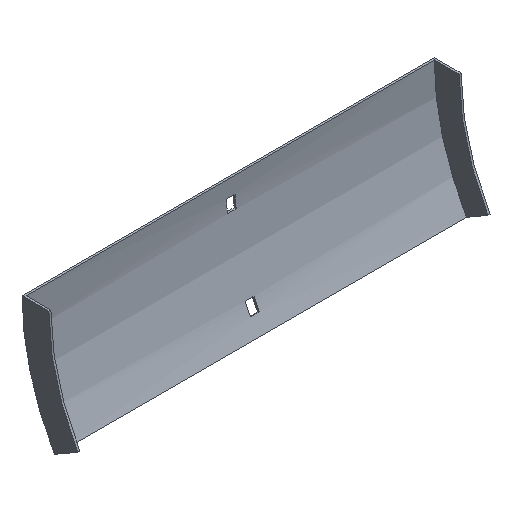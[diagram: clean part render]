
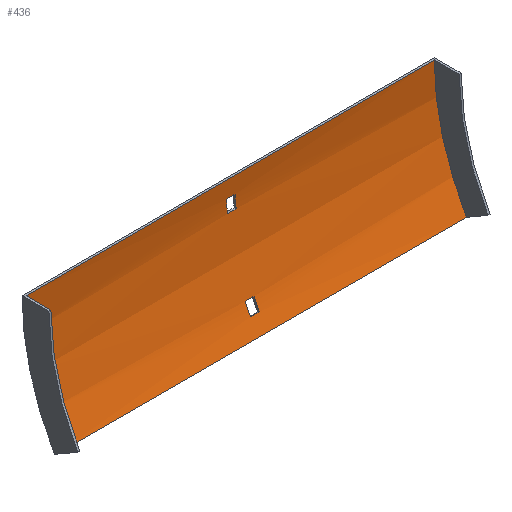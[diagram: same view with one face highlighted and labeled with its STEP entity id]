
A CAD part, isometric view. The second image highlights one B-rep face of the part: STEP entity #436.
In plain terms, the highlighted cylindrical face has radius 179 mm (diameter 358 mm), a partial arc.
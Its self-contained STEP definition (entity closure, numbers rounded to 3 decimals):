
#10 = CARTESIAN_POINT ( 'NONE',  ( -152., -180.5, 0. ) ) ;
#14 = LINE ( 'NONE', #215, #394 ) ;
#21 = CARTESIAN_POINT ( 'NONE',  ( -3.25, -19.83, -78.906 ) ) ;
#26 = CARTESIAN_POINT ( 'NONE',  ( -3.25, -2.736, -21. ) ) ;
#27 = DIRECTION ( 'NONE',  ( -1., 0., 0. ) ) ;
#29 = EDGE_LOOP ( 'NONE', ( #414, #30, #606, #197 ) ) ;
#30 = ORIENTED_EDGE ( 'NONE', *, *, #154, .F. ) ;
#32 = LINE ( 'NONE', #119, #281 ) ;
#40 = CARTESIAN_POINT ( 'NONE',  ( 3.25, -180.5, 0. ) ) ;
#41 = CARTESIAN_POINT ( 'NONE',  ( 3.25, -19.83, -78.906 ) ) ;
#47 = EDGE_CURVE ( 'NONE', #99, #546, #32, .T. ) ;
#54 = CARTESIAN_POINT ( 'NONE',  ( 152., -180.5, 0. ) ) ;
#56 = EDGE_CURVE ( 'NONE', #227, #192, #273, .T. ) ;
#64 = VERTEX_POINT ( 'NONE', #26 ) ;
#70 = CARTESIAN_POINT ( 'NONE',  ( 3.25, -1.903, -12. ) ) ;
#75 = VERTEX_POINT ( 'NONE', #21 ) ;
#77 = DIRECTION ( 'NONE',  ( 0., 0., -1. ) ) ;
#92 = ORIENTED_EDGE ( 'NONE', *, *, #282, .T. ) ;
#98 = DIRECTION ( 'NONE',  ( 1., 0., 0. ) ) ;
#99 = VERTEX_POINT ( 'NONE', #508 ) ;
#105 = CARTESIAN_POINT ( 'NONE',  ( 152., -25.481, -89.5 ) ) ;
#119 = CARTESIAN_POINT ( 'NONE',  ( 153.5, -16.052, -70.695 ) ) ;
#120 = CARTESIAN_POINT ( 'NONE',  ( 153.5, -180.5, 0. ) ) ;
#121 = CIRCLE ( 'NONE', #206, 179. ) ;
#122 = VERTEX_POINT ( 'NONE', #41 ) ;
#132 = AXIS2_PLACEMENT_3D ( 'NONE', #54, #435, #199 ) ;
#133 = VERTEX_POINT ( 'NONE', #423 ) ;
#146 = CARTESIAN_POINT ( 'NONE',  ( -152., -25.481, -89.5 ) ) ;
#150 = ORIENTED_EDGE ( 'NONE', *, *, #225, .T. ) ;
#154 = EDGE_CURVE ( 'NONE', #276, #396, #285, .T. ) ;
#159 = CARTESIAN_POINT ( 'NONE',  ( 3.25, -180.5, 0. ) ) ;
#164 = EDGE_LOOP ( 'NONE', ( #283, #426, #240, #150 ) ) ;
#169 = FACE_BOUND ( 'NONE', #29, .T. ) ;
#172 = EDGE_CURVE ( 'NONE', #475, #276, #481, .T. ) ;
#186 = CARTESIAN_POINT ( 'NONE',  ( 3.25, -16.052, -70.695 ) ) ;
#190 = ORIENTED_EDGE ( 'NONE', *, *, #47, .T. ) ;
#191 = CARTESIAN_POINT ( 'NONE',  ( 152., -1.5, 0. ) ) ;
#192 = VERTEX_POINT ( 'NONE', #146 ) ;
#193 = DIRECTION ( 'NONE',  ( 0., 0., 1. ) ) ;
#197 = ORIENTED_EDGE ( 'NONE', *, *, #422, .F. ) ;
#199 = DIRECTION ( 'NONE',  ( 0., 0., 1. ) ) ;
#206 = AXIS2_PLACEMENT_3D ( 'NONE', #383, #564, #77 ) ;
#209 = CARTESIAN_POINT ( 'NONE',  ( 152., -1.5, 0. ) ) ;
#215 = CARTESIAN_POINT ( 'NONE',  ( 153.5, -19.83, -78.906 ) ) ;
#223 = DIRECTION ( 'NONE',  ( 1., 0., 0. ) ) ;
#225 = EDGE_CURVE ( 'NONE', #302, #133, #478, .T. ) ;
#227 = VERTEX_POINT ( 'NONE', #105 ) ;
#236 = DIRECTION ( 'NONE',  ( 0., 0., 1. ) ) ;
#240 = ORIENTED_EDGE ( 'NONE', *, *, #484, .T. ) ;
#241 = DIRECTION ( 'NONE',  ( -1., 0., 0. ) ) ;
#244 = AXIS2_PLACEMENT_3D ( 'NONE', #159, #98, #597 ) ;
#254 = CIRCLE ( 'NONE', #560, 179. ) ;
#259 = CARTESIAN_POINT ( 'NONE',  ( -3.25, -1.903, -12. ) ) ;
#260 = CYLINDRICAL_SURFACE ( 'NONE', #353, 179. ) ;
#273 = LINE ( 'NONE', #452, #318 ) ;
#276 = VERTEX_POINT ( 'NONE', #70 ) ;
#281 = VECTOR ( 'NONE', #405, 1000. ) ;
#282 = EDGE_CURVE ( 'NONE', #546, #122, #495, .T. ) ;
#283 = ORIENTED_EDGE ( 'NONE', *, *, #471, .F. ) ;
#285 = LINE ( 'NONE', #346, #380 ) ;
#289 = CIRCLE ( 'NONE', #367, 179. ) ;
#302 = VERTEX_POINT ( 'NONE', #191 ) ;
#312 = ORIENTED_EDGE ( 'NONE', *, *, #409, .T. ) ;
#318 = VECTOR ( 'NONE', #585, 1000. ) ;
#346 = CARTESIAN_POINT ( 'NONE',  ( 153.5, -1.903, -12. ) ) ;
#352 = FACE_BOUND ( 'NONE', #375, .T. ) ;
#353 = AXIS2_PLACEMENT_3D ( 'NONE', #120, #487, #579 ) ;
#357 = VECTOR ( 'NONE', #524, 1000. ) ;
#365 = EDGE_CURVE ( 'NONE', #75, #99, #121, .T. ) ;
#367 = AXIS2_PLACEMENT_3D ( 'NONE', #521, #596, #193 ) ;
#375 = EDGE_LOOP ( 'NONE', ( #312, #417, #190, #92 ) ) ;
#380 = VECTOR ( 'NONE', #241, 1000. ) ;
#383 = CARTESIAN_POINT ( 'NONE',  ( -3.25, -180.5, 0. ) ) ;
#394 = VECTOR ( 'NONE', #27, 1000. ) ;
#396 = VERTEX_POINT ( 'NONE', #259 ) ;
#398 = CARTESIAN_POINT ( 'NONE',  ( 153.5, -2.736, -21. ) ) ;
#401 = LINE ( 'NONE', #398, #403 ) ;
#402 = AXIS2_PLACEMENT_3D ( 'NONE', #40, #448, #236 ) ;
#403 = VECTOR ( 'NONE', #223, 1000. ) ;
#405 = DIRECTION ( 'NONE',  ( 1., 0., 0. ) ) ;
#409 = EDGE_CURVE ( 'NONE', #122, #75, #14, .T. ) ;
#414 = ORIENTED_EDGE ( 'NONE', *, *, #598, .F. ) ;
#417 = ORIENTED_EDGE ( 'NONE', *, *, #365, .T. ) ;
#422 = EDGE_CURVE ( 'NONE', #64, #475, #401, .T. ) ;
#423 = CARTESIAN_POINT ( 'NONE',  ( -152., -1.5, 0. ) ) ;
#426 = ORIENTED_EDGE ( 'NONE', *, *, #56, .F. ) ;
#435 = DIRECTION ( 'NONE',  ( 1., 0., 0. ) ) ;
#436 = ADVANCED_FACE ( 'NONE', ( #169, #491, #352 ), #260, .F. ) ;
#448 = DIRECTION ( 'NONE',  ( -1., 0., 0. ) ) ;
#449 = CARTESIAN_POINT ( 'NONE',  ( 3.25, -2.736, -21. ) ) ;
#452 = CARTESIAN_POINT ( 'NONE',  ( 152., -25.481, -89.5 ) ) ;
#471 = EDGE_CURVE ( 'NONE', #192, #133, #254, .T. ) ;
#473 = CIRCLE ( 'NONE', #132, 179. ) ;
#475 = VERTEX_POINT ( 'NONE', #449 ) ;
#478 = LINE ( 'NONE', #209, #357 ) ;
#481 = CIRCLE ( 'NONE', #244, 179. ) ;
#484 = EDGE_CURVE ( 'NONE', #227, #302, #473, .T. ) ;
#487 = DIRECTION ( 'NONE',  ( -1., 0., 0. ) ) ;
#491 = FACE_OUTER_BOUND ( 'NONE', #164, .T. ) ;
#493 = DIRECTION ( 'NONE',  ( 0., 0., 1. ) ) ;
#495 = CIRCLE ( 'NONE', #402, 179. ) ;
#508 = CARTESIAN_POINT ( 'NONE',  ( -3.25, -16.052, -70.695 ) ) ;
#521 = CARTESIAN_POINT ( 'NONE',  ( -3.25, -180.5, 0. ) ) ;
#524 = DIRECTION ( 'NONE',  ( -1., 0., 0. ) ) ;
#531 = DIRECTION ( 'NONE',  ( 1., 0., 0. ) ) ;
#546 = VERTEX_POINT ( 'NONE', #186 ) ;
#560 = AXIS2_PLACEMENT_3D ( 'NONE', #10, #531, #493 ) ;
#564 = DIRECTION ( 'NONE',  ( 1., 0., 0. ) ) ;
#579 = DIRECTION ( 'NONE',  ( 0., 0., 1. ) ) ;
#585 = DIRECTION ( 'NONE',  ( -1., 0., 0. ) ) ;
#596 = DIRECTION ( 'NONE',  ( -1., 0., 0. ) ) ;
#597 = DIRECTION ( 'NONE',  ( 0., 0., -1. ) ) ;
#598 = EDGE_CURVE ( 'NONE', #396, #64, #289, .T. ) ;
#606 = ORIENTED_EDGE ( 'NONE', *, *, #172, .F. ) ;
